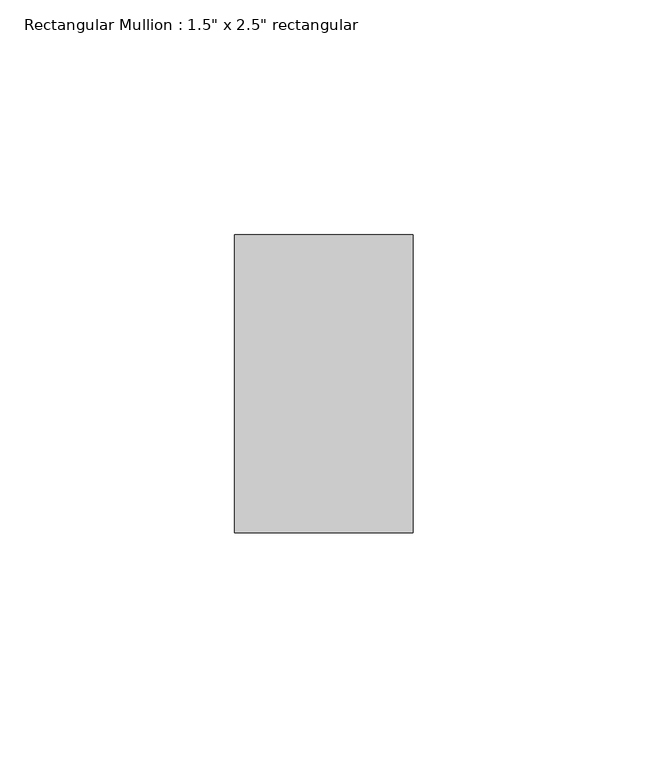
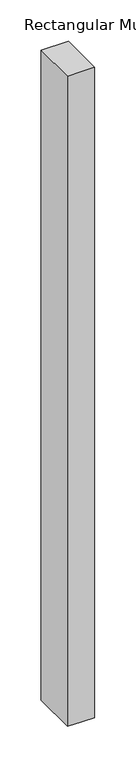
"""IFC4 building model written with IfcOpenShell, lengths in millimetres: member geometry."""

from ifc_helpers import new_model, si_unit, frame, origin, place, context, project, spatial, polyline, outline, extrude, source, transform, mapped, element, save


def member_05e2fa80(model_context):
    return source(origin(), model_context, "Body", "SweptSolid", [
        extrude(outline(polyline([(0.0, 19.05), (0.0, -19.05), (-958.9534763, -19.05), (-959.6999752, 1.1079989), (-959.6618881, 19.05), (0.0, 19.05)])), frame((0.0, -31.75, 0.0), z_axis=(0.0, 1.0, 0.0), x_axis=(0.0, 0.0, 1.0)), (0.0, 0.0, 1.0), 63.5),
    ])


if __name__ == "__main__":
    model = new_model("IFC4")
    model_context = context("Model", 3, world=origin())
    ifc_project = project(units=[si_unit("LENGTHUNIT", "METRE", prefix="MILLI")], contexts=[model_context])
    site = spatial("IfcSite", under=ifc_project)
    building = spatial("IfcBuilding", under=site)
    placement = place(None, origin())
    member_shape = member_05e2fa80(model_context)
    element("IfcMember", 1, ObjectType="Rectangular Mullion : 1.5\" x 2.5\" rectangular", at=placement, inside=building, context=model_context, shape_type="MappedRepresentation", body=[
        mapped(member_shape, transform((0.0, 0.0, 0.0), x_axis=(1.0, 0.0, 0.0), y_axis=(0.0, 1.0, 0.0), z_axis=(0.0, 0.0, 1.0))),
    ])
    save(model, "model.ifc")
